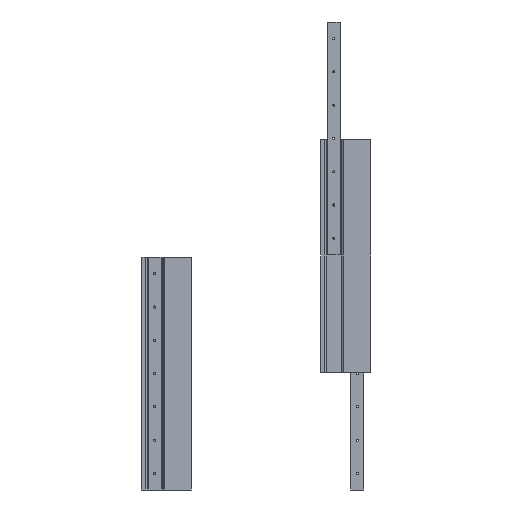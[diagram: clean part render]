
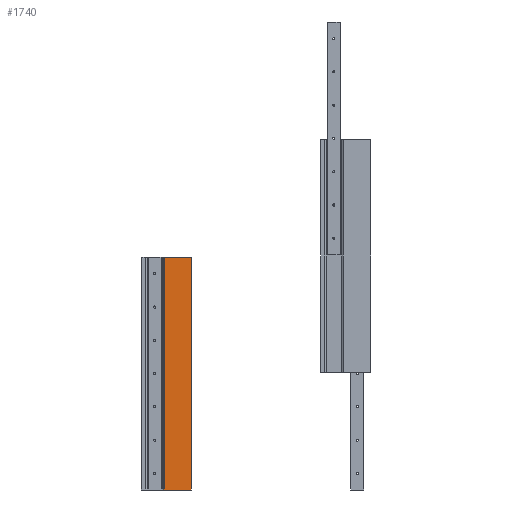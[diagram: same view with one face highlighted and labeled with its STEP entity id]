
A CAD part, front view. The second image highlights one B-rep face of the part: STEP entity #1740.
In plain terms, the highlighted planar face has unit normal (0, -1, 0) as drawn and (-1, 0, 0) by its records, which use the part's own axes.
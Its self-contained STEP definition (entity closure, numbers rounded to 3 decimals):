
#1682=CARTESIAN_POINT('',(-17.,-74.5,700.0));
#1683=VERTEX_POINT('',#1682);
#1691=CARTESIAN_POINT('',(-17.,-74.5,0.0));
#1692=VERTEX_POINT('',#1691);
#1693=CARTESIAN_POINT('',(-17.,-74.5,0.0));
#1694=DIRECTION('',(0.0,0.0,1.0));
#1695=VECTOR('',#1694,700.0);
#1696=LINE('',#1693,#1695);
#1697=EDGE_CURVE('',#1692,#1683,#1696,.T.);
#1710=CARTESIAN_POINT('',(-17.,-74.5,0.0));
#1711=DIRECTION('',(-1.0,0.0,0.0));
#1712=DIRECTION('',(0.0,0.0,1.0));
#1713=AXIS2_PLACEMENT_3D('',#1710,#1711,#1712);
#1714=PLANE('',#1713);
#1715=CARTESIAN_POINT('',(-17.,7.,700.0));
#1716=VERTEX_POINT('',#1715);
#1717=CARTESIAN_POINT('',(-17.,-74.5,700.0));
#1718=DIRECTION('',(0.0,1.0,0.0));
#1719=VECTOR('',#1718,81.5);
#1720=LINE('',#1717,#1719);
#1721=EDGE_CURVE('',#1683,#1716,#1720,.T.);
#1722=ORIENTED_EDGE('',*,*,#1721,.T.);
#1723=CARTESIAN_POINT('',(-17.,7.,0.0));
#1724=VERTEX_POINT('',#1723);
#1725=CARTESIAN_POINT('',(-17.,7.,0.0));
#1726=DIRECTION('',(0.0,0.0,1.0));
#1727=VECTOR('',#1726,700.0);
#1728=LINE('',#1725,#1727);
#1729=EDGE_CURVE('',#1724,#1716,#1728,.T.);
#1730=ORIENTED_EDGE('',*,*,#1729,.F.);
#1731=CARTESIAN_POINT('',(-17.,7.,0.0));
#1732=DIRECTION('',(0.0,-1.0,0.0));
#1733=VECTOR('',#1732,81.5);
#1734=LINE('',#1731,#1733);
#1735=EDGE_CURVE('',#1724,#1692,#1734,.T.);
#1736=ORIENTED_EDGE('',*,*,#1735,.T.);
#1737=ORIENTED_EDGE('',*,*,#1697,.T.);
#1738=EDGE_LOOP('',(#1722,#1730,#1736,#1737));
#1739=FACE_OUTER_BOUND('',#1738,.T.);
#1740=ADVANCED_FACE('',(#1739),#1714,.T.);
